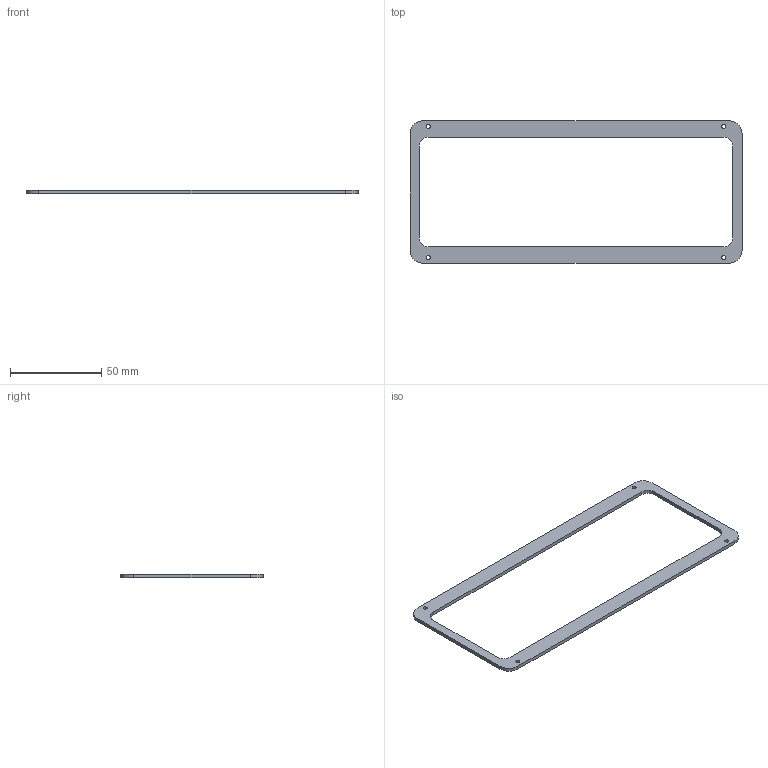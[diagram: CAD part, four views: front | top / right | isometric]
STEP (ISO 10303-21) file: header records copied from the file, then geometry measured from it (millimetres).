
FILE_DESCRIPTION(('Open CASCADE Model'),'2;1');
FILE_NAME('Open CASCADE Shape Model','2026-10-18T19:44:56',('Author'),( 'Open CASCADE'),'Open CASCADE STEP processor 7.9','Open CASCADE 7.9' ,'Unknown');
FILE_SCHEMA(('AUTOMOTIVE_DESIGN { 1 0 10303 214 1 1 1 1 }'));
Length unit declared in the file: millimetre
Products named in the file (1): Open CASCADE STEP translator 7.9 3
Bounding box: 182 x 78 x 2 mm (x, y, z)
Volume: 7680.4 mm3; surface area: 9662.5 mm2
Topology: 1 solids, 1 shells, 22 faces, 60 edges, 40 vertices
Faces by surface type: cylinder 12, plane 10
Full cylindrical faces by diameter (mm): 2.2 x4
Entity records: 1538 total; most frequent: CARTESIAN_POINT 331, DIRECTION 222, ORIENTED_EDGE 120, PCURVE 120, DEFINITIONAL_REPRESENTATION 120, LINE 116, VECTOR 116, EDGE_CURVE 60
